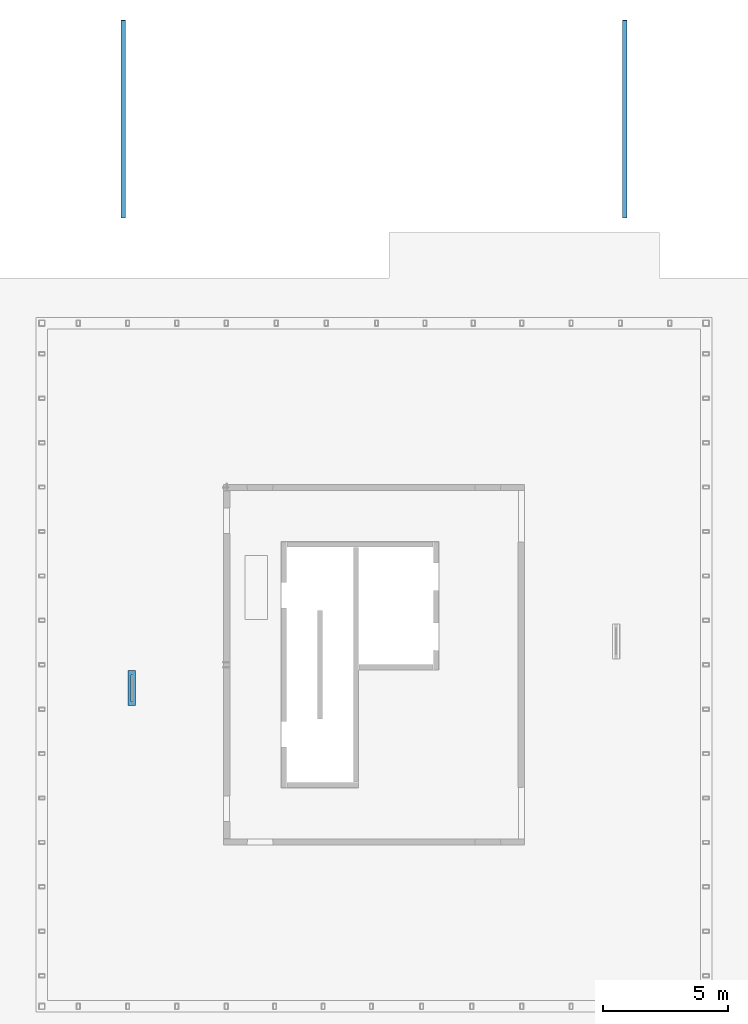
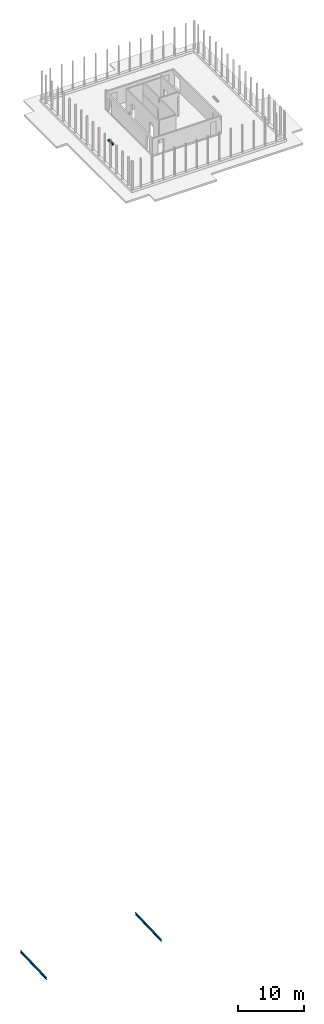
# One storey, part 6 of 9: 2 beams, 1 slab.
"""IFC2X3 building model written with IfcOpenShell, lengths in millimetres."""

from ifc_helpers import new_model, entity, si_unit, converted_unit, derived_unit, direction, frame, frame_2d, origin, place, context, subcontext, project, spatial, polyline, rectangle, i_section, extrude, boolean, clip, bounded_halfspace, material, layer, layer_set, layer_usage, type_object, element, save


model = new_model("IFC2X3")

# Units and contexts
model_context = context("Model", 3, precision=0.01, world=origin(), true_north=direction((6.12303176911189e-17, 1.0)))
body_context = subcontext(model_context, "Body", "Model", "MODEL_VIEW")
ifc_project = project(units=[si_unit("LENGTHUNIT", "METRE", prefix="MILLI"), si_unit("AREAUNIT", "SQUARE_METRE"), si_unit("VOLUMEUNIT", "CUBIC_METRE"), converted_unit("PLANEANGLEUNIT", "DEGREE", entity("IfcRatioMeasure", 0.0174532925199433), si_unit("PLANEANGLEUNIT", "RADIAN"), dimensions=[0, 0, 0, 0, 0, 0, 0]), si_unit("MASSUNIT", "GRAM", prefix="KILO"), derived_unit("MASSDENSITYUNIT", [(si_unit("MASSUNIT", "GRAM", prefix="KILO"), 1), (si_unit("LENGTHUNIT", "METRE"), -3)]), si_unit("TIMEUNIT", "SECOND"), si_unit("FREQUENCYUNIT", "HERTZ"), si_unit("THERMODYNAMICTEMPERATUREUNIT", "DEGREE_CELSIUS"), derived_unit("THERMALTRANSMITTANCEUNIT", [(si_unit("MASSUNIT", "GRAM", prefix="KILO"), 1), (si_unit("THERMODYNAMICTEMPERATUREUNIT", "KELVIN"), -1), (si_unit("TIMEUNIT", "SECOND"), -3)]), derived_unit("VOLUMETRICFLOWRATEUNIT", [(si_unit("LENGTHUNIT", "METRE"), 3), (si_unit("TIMEUNIT", "SECOND"), -1)]), si_unit("ELECTRICCURRENTUNIT", "AMPERE"), si_unit("ELECTRICVOLTAGEUNIT", "VOLT"), si_unit("POWERUNIT", "WATT"), si_unit("FORCEUNIT", "NEWTON", prefix="KILO"), si_unit("ILLUMINANCEUNIT", "LUX"), si_unit("LUMINOUSFLUXUNIT", "LUMEN"), si_unit("LUMINOUSINTENSITYUNIT", "CANDELA"), derived_unit("USERDEFINED", [(si_unit("MASSUNIT", "GRAM", prefix="KILO"), -1), (si_unit("LENGTHUNIT", "METRE"), -2), (si_unit("TIMEUNIT", "SECOND"), 3), (si_unit("LUMINOUSFLUXUNIT", "LUMEN"), 1)]), derived_unit("LINEARVELOCITYUNIT", [(si_unit("LENGTHUNIT", "METRE"), 1), (si_unit("TIMEUNIT", "SECOND"), -1)]), si_unit("PRESSUREUNIT", "PASCAL"), derived_unit("USERDEFINED", [(si_unit("LENGTHUNIT", "METRE"), -2), (si_unit("MASSUNIT", "GRAM", prefix="KILO"), 1), (si_unit("TIMEUNIT", "SECOND"), -2)])], contexts=[model_context])

# Site, building, storey
site_placement = place(None, origin())
site = spatial("IfcSite", under=ifc_project, at=site_placement, Name="Default", CompositionType="ELEMENT")
building_placement = place(site_placement, origin())
building = spatial("IfcBuilding", under=site, at=building_placement, Name="niet gebruiken", CompositionType="ELEMENT")
storey_placement = place(building_placement, frame((0.0, 0.0, 178840.0)))
storey = spatial("IfcBuildingStorey", under=building, at=storey_placement, Name="57 zevenenvijftigste verdieping", CompositionType="ELEMENT", Elevation=178840.0)

# Beams
ifc_material_1 = material(Name="NLRS_h2_staal")
beam_type = type_object("IfcBeamType", Name="NLRS_28.11_SF_WPB_stalen ligger IPE_gen:ligger IPE 400", PredefinedType="BEAM")
beam_1_placement = place(storey_placement, frame((151750.0, 35327.3993988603, -165206.417490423), z_axis=(0.0, -0.0348994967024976, 0.999390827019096), x_axis=(0.0, 0.999390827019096, 0.0348994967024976)))
element("IfcBeam", 1, at=beam_1_placement, inside=storey, type_object=beam_type, material=ifc_material_1, Name="NLRS_28.11_SF_WPB_stalen ligger IPE_gen:ligger IPE 400", ObjectType="NLRS_28.11_SF_WPB_stalen ligger IPE_gen:ligger IPE 400", context=body_context, shape_type="SweptSolid", body=[
    extrude(i_section(OverallWidth=179.999999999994, OverallDepth=400.000000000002, WebThickness=8.60000000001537, FlangeThickness=13.4999999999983, FilletRadius=20.9999999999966, at=frame_2d((1.08002495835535e-12, -1.73301373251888e-11), x_axis=(0.0, 1.0))), frame((0.0, 0.0, -200.0), z_axis=(1.0, 0.0, 0.0), x_axis=(0.0, 0.0, -1.0)), (0.0, 0.0, 1.0), 7893.00000000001),
])
beam_2_placement = place(storey_placement, frame((131749.99954004, 35327.3993988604, -165206.417490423), z_axis=(0.0, -0.0348994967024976, 0.999390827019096), x_axis=(0.0, 0.999390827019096, 0.0348994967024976)))
element("IfcBeam", 2, at=beam_2_placement, inside=storey, type_object=beam_type, material=ifc_material_1, Name="NLRS_28.11_SF_WPB_stalen ligger IPE_gen:ligger IPE 400", ObjectType="NLRS_28.11_SF_WPB_stalen ligger IPE_gen:ligger IPE 400", context=body_context, shape_type="SweptSolid", body=[
    extrude(i_section(OverallWidth=179.999999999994, OverallDepth=400.000000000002, WebThickness=8.60000000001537, FlangeThickness=13.4999999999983, FilletRadius=20.9999999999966, at=frame_2d((1.08002495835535e-12, 0.0), x_axis=(0.0, 1.0))), frame((0.0, 0.0, -200.0), z_axis=(1.0, 0.0, 0.0), x_axis=(0.0, 0.0, -1.0)), (0.0, 0.0, 1.0), 7893.00000000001),
])

# Slab
ifc_material_2 = material(Name="NLRS_f2_beton prefab")
ifc_layer = layer(ifc_material_2, 260.0)
ifc_layer_set = layer_set([ifc_layer], Name="Floor:NLRS_13.22_FL_beton prefab d=260_gen")
ifc_layer_usage = layer_usage(ifc_layer_set, "AXIS3", "POSITIVE", 0.0)
slab_placement = place(storey_placement, origin())
element("IfcSlab", 3, at=slab_placement, inside=storey, material=ifc_layer_usage, Name="Floor:NLRS_13.22_FL_beton prefab d=260_gen", ObjectType="Floor:NLRS_13.22_FL_beton prefab d=260_gen", PredefinedType="BASESLAB", context=body_context, shape_type="CSG", body=[
    boolean("DIFFERENCE", clip(extrude(rectangle(XDim=1399.99999999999, YDim=300.000000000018, at=frame_2d((1.08002495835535e-12, -8.66862137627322e-12), x_axis=(1.0, 0.0))), frame((132090.0, 16565.0, -25.0), z_axis=(0.0, 0.0, -1.0), x_axis=(0.0, 1.0, 0.0)), (0.0, 0.0, 1.0), 260.00000000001), bounded_halfspace(frame((132120.0, 17090.0, -125.0), z_axis=(0.0, 0.0, 1.0), x_axis=(0.0, -1.0, 0.0)), False, frame((132090.0, 16565.0, -25.0), z_axis=(0.0, 0.0, -1.0), x_axis=(0.0, 1.0, 0.0)), polyline([(-525.0, 30.0), (525.0, 30.0), (525.0, -30.0), (-525.0, -30.0), (-525.0, 30.0)]))), extrude(rectangle(XDim=60.0000000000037, YDim=1050.0, at=frame_2d((-1.73248082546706e-11, 1.08002495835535e-12), x_axis=(1.0, 0.0))), frame((132090.0, 16565.0, -125.0)), (0.0, 0.0, 1.0), 100.000000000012)),
])

save(model, "model.ifc")
